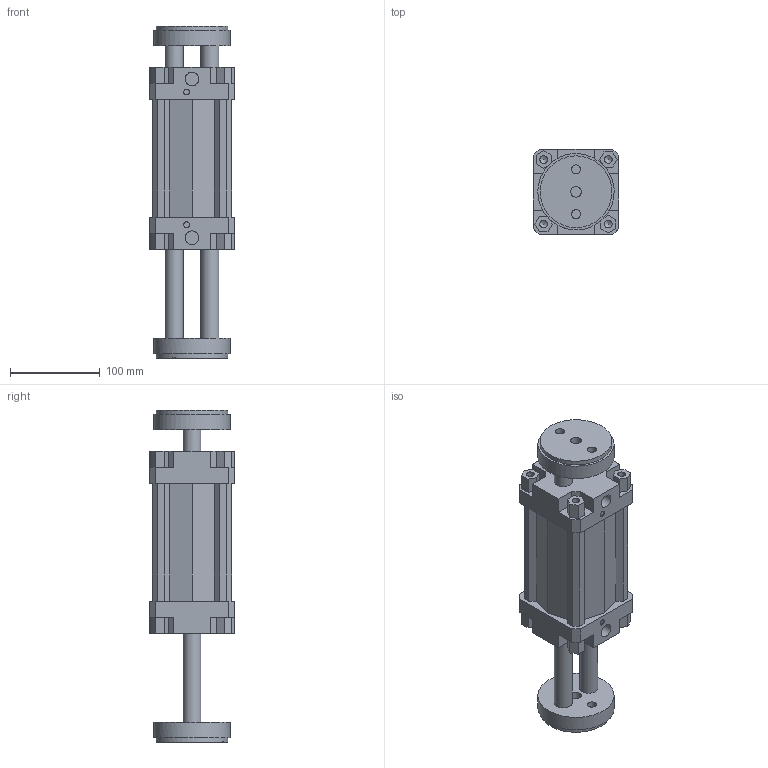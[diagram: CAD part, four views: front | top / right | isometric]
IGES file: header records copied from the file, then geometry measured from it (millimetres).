
Global section: file name: 132#_080_0075_06; native system: Autodesk Inventor 2014; preprocessor: unknown; author: A. Manieri; date: 20161006.162331; units: millimetre
Bounding box: 95 x 95 x 370 mm (x, y, z)
Volume: 1448731.6 mm3; surface area: 253286.7 mm2
Topology: 2 solids, 2 shells, 190 faces, 518 edges, 354 vertices
Faces by surface type: bspline 190
